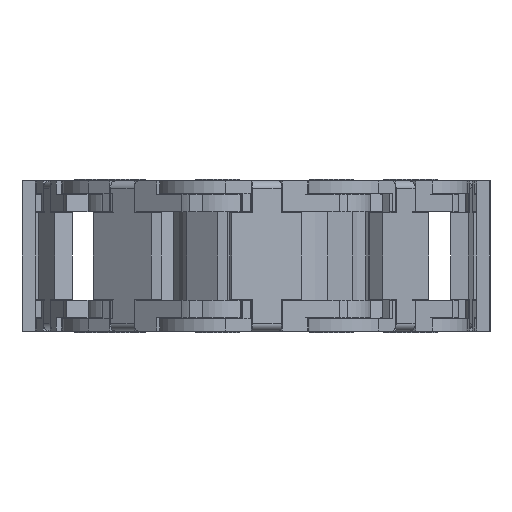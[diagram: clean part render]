
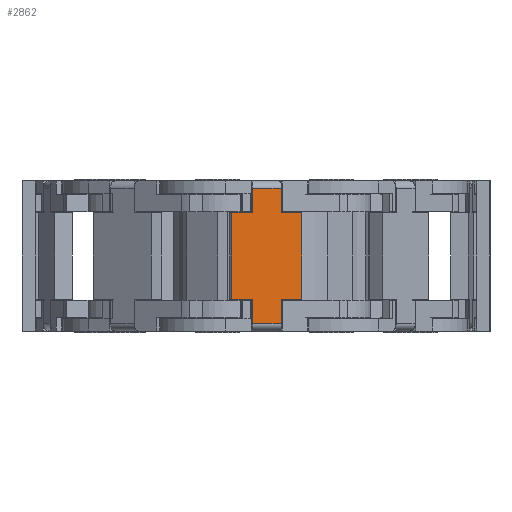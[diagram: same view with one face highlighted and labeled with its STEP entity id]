
A CAD part, left-side view. The second image highlights one B-rep face of the part: STEP entity #2862.
In plain terms, the highlighted planar face has unit normal (-0.992, -0.124, 0).
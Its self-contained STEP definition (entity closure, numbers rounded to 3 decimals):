
#2862=ADVANCED_FACE('',(#5110),#3954,.F.);
#3954=PLANE('',#28725);
#5110=FACE_OUTER_BOUND('',#6622,.T.);
#6622=EDGE_LOOP('',(#12671,#12672,#12673,#12674,#12675,#12676,#12677,#12678,
#12679,#12680,#12681,#12682));
#12671=ORIENTED_EDGE('',*,*,#20105,.T.);
#12672=ORIENTED_EDGE('',*,*,#20099,.F.);
#12673=ORIENTED_EDGE('',*,*,#20108,.F.);
#12674=ORIENTED_EDGE('',*,*,#20113,.T.);
#12675=ORIENTED_EDGE('',*,*,#20084,.T.);
#12676=ORIENTED_EDGE('',*,*,#20077,.T.);
#12677=ORIENTED_EDGE('',*,*,#20083,.F.);
#12678=ORIENTED_EDGE('',*,*,#20092,.T.);
#12679=ORIENTED_EDGE('',*,*,#20090,.T.);
#12680=ORIENTED_EDGE('',*,*,#20111,.F.);
#12681=ORIENTED_EDGE('',*,*,#20115,.F.);
#12682=ORIENTED_EDGE('',*,*,#20117,.F.);
#16586=VERTEX_POINT('',#42535);
#16587=VERTEX_POINT('',#42537);
#16590=VERTEX_POINT('',#42547);
#16591=VERTEX_POINT('',#42551);
#16593=VERTEX_POINT('',#42557);
#16596=VERTEX_POINT('',#42562);
#16602=VERTEX_POINT('',#42580);
#16603=VERTEX_POINT('',#42582);
#16606=VERTEX_POINT('',#42592);
#16608=VERTEX_POINT('',#42598);
#16610=VERTEX_POINT('',#42604);
#16611=VERTEX_POINT('',#42611);
#20077=EDGE_CURVE('',#16587,#16586,#23264,.T.);
#20083=EDGE_CURVE('',#16590,#16586,#23269,.T.);
#20084=EDGE_CURVE('',#16591,#16587,#23270,.T.);
#20090=EDGE_CURVE('',#16593,#16596,#23276,.T.);
#20092=EDGE_CURVE('',#16590,#16593,#23278,.T.);
#20099=EDGE_CURVE('',#16602,#16603,#23283,.T.);
#20105=EDGE_CURVE('',#16606,#16603,#23287,.T.);
#20108=EDGE_CURVE('',#16608,#16602,#23290,.T.);
#20111=EDGE_CURVE('',#16610,#16596,#23293,.T.);
#20113=EDGE_CURVE('',#16608,#16591,#23295,.T.);
#20115=EDGE_CURVE('',#16611,#16610,#23297,.T.);
#20117=EDGE_CURVE('',#16606,#16611,#23299,.T.);
#23264=LINE('',#42536,#26222);
#23269=LINE('',#42548,#26227);
#23270=LINE('',#42550,#26228);
#23276=LINE('',#42563,#26234);
#23278=LINE('',#42566,#26236);
#23283=LINE('',#42581,#26241);
#23287=LINE('',#42593,#26245);
#23290=LINE('',#42599,#26248);
#23293=LINE('',#42605,#26251);
#23295=LINE('',#42608,#26253);
#23297=LINE('',#42613,#26255);
#23299=LINE('',#42616,#26257);
#26222=VECTOR('',#34789,1.);
#26227=VECTOR('',#34800,1.);
#26228=VECTOR('',#34803,1.);
#26234=VECTOR('',#34811,1.);
#26236=VECTOR('',#34815,1.);
#26241=VECTOR('',#34828,1.);
#26245=VECTOR('',#34840,1.);
#26248=VECTOR('',#34845,1.);
#26251=VECTOR('',#34850,1.);
#26253=VECTOR('',#34854,1.);
#26255=VECTOR('',#34858,1.);
#26257=VECTOR('',#34862,1.);
#28725=AXIS2_PLACEMENT_3D('',#42620,#34868,#34869);
#34789=DIRECTION('',(0.,0.,1.));
#34800=DIRECTION('',(0.124,-0.992,0.));
#34803=DIRECTION('',(-0.124,0.992,0.));
#34811=DIRECTION('',(-0.124,0.992,0.));
#34815=DIRECTION('',(0.,0.,-1.));
#34828=DIRECTION('',(0.,0.,-1.));
#34840=DIRECTION('',(0.124,-0.992,0.));
#34845=DIRECTION('',(-0.124,0.992,0.));
#34850=DIRECTION('',(0.,0.,1.));
#34854=DIRECTION('',(0.,0.,1.));
#34858=DIRECTION('',(-0.124,0.992,0.));
#34862=DIRECTION('',(0.,0.,1.));
#34868=DIRECTION('',(0.992,0.124,0.));
#34869=DIRECTION('',(0.,0.,-1.));
#42535=CARTESIAN_POINT('',(-23.612,-2.863,7.65));
#42536=CARTESIAN_POINT('',(-23.612,-2.863,4.9));
#42537=CARTESIAN_POINT('',(-23.612,-2.863,4.9));
#42547=CARTESIAN_POINT('',(-24.023,0.411,7.65));
#42548=CARTESIAN_POINT('',(-24.023,0.411,7.65));
#42550=CARTESIAN_POINT('',(-23.32,-5.195,4.9));
#42551=CARTESIAN_POINT('',(-23.32,-5.195,4.9));
#42557=CARTESIAN_POINT('',(-24.023,0.411,4.9));
#42562=CARTESIAN_POINT('',(-24.315,2.743,4.9));
#42563=CARTESIAN_POINT('',(-24.023,0.411,4.9));
#42566=CARTESIAN_POINT('',(-24.023,0.411,7.65));
#42580=CARTESIAN_POINT('',(-23.612,-2.863,-4.9));
#42581=CARTESIAN_POINT('',(-23.612,-2.863,-4.9));
#42582=CARTESIAN_POINT('',(-23.612,-2.863,-7.65));
#42592=CARTESIAN_POINT('',(-24.023,0.411,-7.65));
#42593=CARTESIAN_POINT('',(-24.023,0.411,-7.65));
#42598=CARTESIAN_POINT('',(-23.32,-5.195,-4.9));
#42599=CARTESIAN_POINT('',(-23.32,-5.195,-4.9));
#42604=CARTESIAN_POINT('',(-24.315,2.743,-4.9));
#42605=CARTESIAN_POINT('',(-24.315,2.743,-4.9));
#42608=CARTESIAN_POINT('',(-23.32,-5.195,-4.9));
#42611=CARTESIAN_POINT('',(-24.023,0.411,-4.9));
#42613=CARTESIAN_POINT('',(-24.023,0.411,-4.9));
#42616=CARTESIAN_POINT('',(-24.023,0.411,-7.65));
#42620=CARTESIAN_POINT('',(-23.32,-5.195,7.65));
